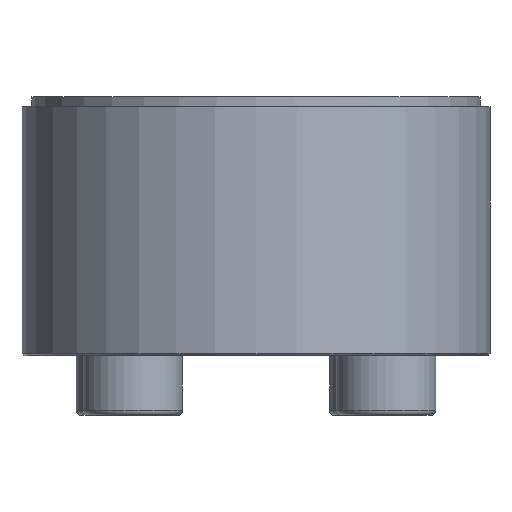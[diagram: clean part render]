
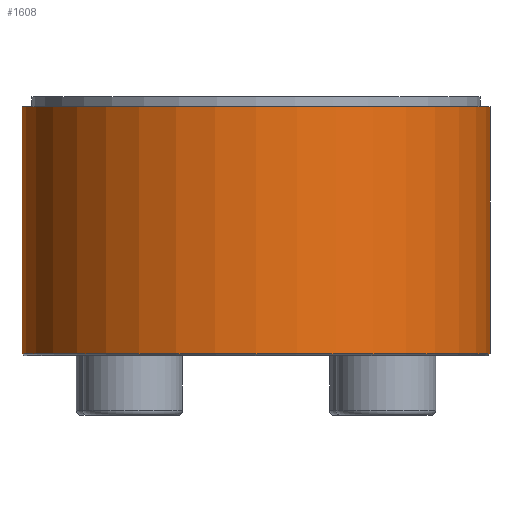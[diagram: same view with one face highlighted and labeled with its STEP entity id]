
A CAD part, front view. The second image highlights one B-rep face of the part: STEP entity #1608.
In plain terms, the highlighted cylindrical face has radius 23.5 mm (diameter 47 mm), a partial arc.
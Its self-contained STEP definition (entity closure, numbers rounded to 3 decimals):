
#12 = EDGE_CURVE ( 'NONE', #1059, #460, #321, .T. ) ;
#92 = FACE_OUTER_BOUND ( 'NONE', #1482, .T. ) ;
#137 = CARTESIAN_POINT ( 'NONE',  ( -23.5, 0., -12.8 ) ) ;
#224 = CARTESIAN_POINT ( 'NONE',  ( 23.5, 0., -12.8 ) ) ;
#321 = LINE ( 'NONE', #656, #474 ) ;
#327 = EDGE_CURVE ( 'NONE', #934, #1059, #1746, .T. ) ;
#338 = LINE ( 'NONE', #1774, #359 ) ;
#359 = VECTOR ( 'NONE', #1095, 1000. ) ;
#371 = DIRECTION ( 'NONE',  ( -1., 0., 0. ) ) ;
#398 = VERTEX_POINT ( 'NONE', #224 ) ;
#419 = AXIS2_PLACEMENT_3D ( 'NONE', #1586, #1452, #1479 ) ;
#460 = VERTEX_POINT ( 'NONE', #137 ) ;
#474 = VECTOR ( 'NONE', #525, 1000. ) ;
#525 = DIRECTION ( 'NONE',  ( 0., 0., -1. ) ) ;
#549 = DIRECTION ( 'NONE',  ( -1., 0., 0. ) ) ;
#641 = CARTESIAN_POINT ( 'NONE',  ( 0., 0., 0. ) ) ;
#656 = CARTESIAN_POINT ( 'NONE',  ( -23.5, 0., 0. ) ) ;
#698 = CARTESIAN_POINT ( 'NONE',  ( 0., 0., -12.8 ) ) ;
#771 = ORIENTED_EDGE ( 'NONE', *, *, #1639, .F. ) ;
#832 = DIRECTION ( 'NONE',  ( 0., 0., 1. ) ) ;
#910 = CIRCLE ( 'NONE', #1664, 23.5 ) ;
#934 = VERTEX_POINT ( 'NONE', #1720 ) ;
#1059 = VERTEX_POINT ( 'NONE', #1232 ) ;
#1078 = ORIENTED_EDGE ( 'NONE', *, *, #327, .T. ) ;
#1095 = DIRECTION ( 'NONE',  ( 0., 0., -1. ) ) ;
#1200 = EDGE_CURVE ( 'NONE', #460, #398, #910, .T. ) ;
#1232 = CARTESIAN_POINT ( 'NONE',  ( -23.5, 0., 12. ) ) ;
#1369 = ORIENTED_EDGE ( 'NONE', *, *, #1200, .T. ) ;
#1378 = AXIS2_PLACEMENT_3D ( 'NONE', #641, #1749, #371 ) ;
#1452 = DIRECTION ( 'NONE',  ( 0., 0., -1. ) ) ;
#1479 = DIRECTION ( 'NONE',  ( 1., 0., 0. ) ) ;
#1482 = EDGE_LOOP ( 'NONE', ( #771, #1078, #1501, #1369 ) ) ;
#1488 = CYLINDRICAL_SURFACE ( 'NONE', #1378, 23.5 ) ;
#1501 = ORIENTED_EDGE ( 'NONE', *, *, #12, .T. ) ;
#1586 = CARTESIAN_POINT ( 'NONE',  ( 0., 0., 12. ) ) ;
#1608 = ADVANCED_FACE ( 'NONE', ( #92 ), #1488, .T. ) ;
#1639 = EDGE_CURVE ( 'NONE', #934, #398, #338, .T. ) ;
#1664 = AXIS2_PLACEMENT_3D ( 'NONE', #698, #832, #549 ) ;
#1720 = CARTESIAN_POINT ( 'NONE',  ( 23.5, 0., 12. ) ) ;
#1746 = CIRCLE ( 'NONE', #419, 23.5 ) ;
#1749 = DIRECTION ( 'NONE',  ( 0., 0., -1. ) ) ;
#1774 = CARTESIAN_POINT ( 'NONE',  ( 23.5, 0., 0. ) ) ;
